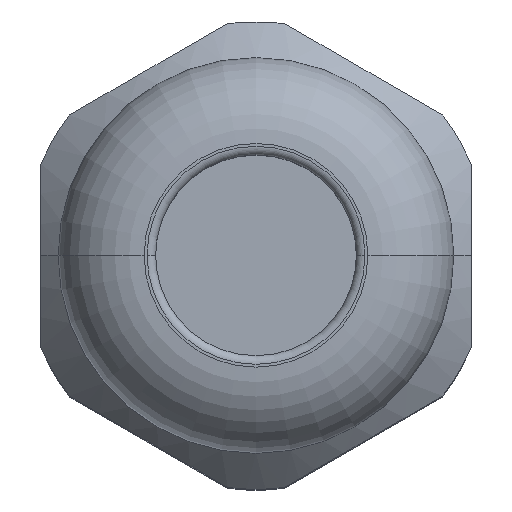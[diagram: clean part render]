
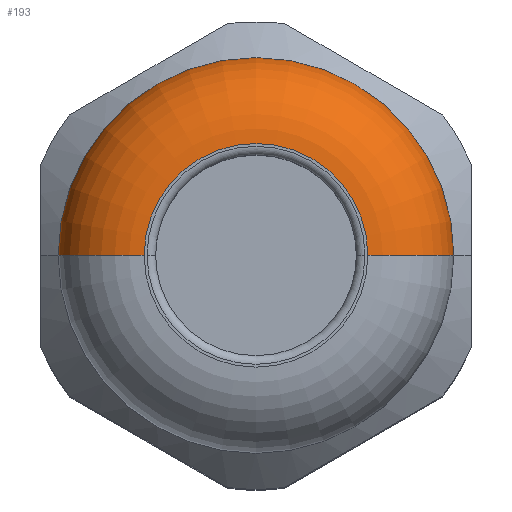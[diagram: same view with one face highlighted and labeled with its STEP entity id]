
A CAD part, top view. The second image highlights one B-rep face of the part: STEP entity #193.
In plain terms, the highlighted toroidal (fillet/blend) face has major radius 3.9 mm and minor radius 3 mm.
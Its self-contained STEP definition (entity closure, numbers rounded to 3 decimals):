
#193 = ADVANCED_FACE ( 'NONE', ( #1267 ), #1266, .T. ) ;
#194 = EDGE_LOOP ( 'NONE', ( #249, #251, #258, #259 ) ) ;
#203 = VERTEX_POINT ( 'NONE', #1299 ) ;
#205 = VERTEX_POINT ( 'NONE', #1298 ) ;
#214 = VERTEX_POINT ( 'NONE', #1276 ) ;
#221 = VERTEX_POINT ( 'NONE', #1323 ) ;
#249 = ORIENTED_EDGE ( 'NONE', *, *, #250, .T. ) ;
#250 = EDGE_CURVE ( 'NONE', #203, #214, #1336, .T. ) ;
#251 = ORIENTED_EDGE ( 'NONE', *, *, #252, .T. ) ;
#252 = EDGE_CURVE ( 'NONE', #214, #205, #1395, .T. ) ;
#253 = EDGE_CURVE ( 'NONE', #203, #221, #1390, .T. ) ;
#258 = ORIENTED_EDGE ( 'NONE', *, *, #263, .F. ) ;
#259 = ORIENTED_EDGE ( 'NONE', *, *, #253, .F. ) ;
#263 = EDGE_CURVE ( 'NONE', #221, #205, #1371, .T. ) ;
#1252 = DIRECTION ( 'NONE',  ( -1., 0., 0. ) ) ;
#1253 = DIRECTION ( 'NONE',  ( 0., 0., -1. ) ) ;
#1263 = AXIS2_PLACEMENT_3D ( 'NONE', #1264, #1253, #1252 ) ;
#1264 = CARTESIAN_POINT ( 'NONE',  ( 0., 0., 28. ) ) ;
#1266 = TOROIDAL_SURFACE ( 'NONE', #1263, 3.9, 3. ) ;
#1267 = FACE_OUTER_BOUND ( 'NONE', #194, .T. ) ;
#1276 = CARTESIAN_POINT ( 'NONE',  ( 3.9, 0., 31. ) ) ;
#1298 = CARTESIAN_POINT ( 'NONE',  ( 6.9, 0., 28. ) ) ;
#1299 = CARTESIAN_POINT ( 'NONE',  ( -3.9, 0., 31. ) ) ;
#1323 = CARTESIAN_POINT ( 'NONE',  ( -6.9, 0., 28. ) ) ;
#1332 = DIRECTION ( 'NONE',  ( -1., 0., 0. ) ) ;
#1333 = DIRECTION ( 'NONE',  ( 0., 0., -1. ) ) ;
#1334 = CARTESIAN_POINT ( 'NONE',  ( 0., 0., 31. ) ) ;
#1335 = AXIS2_PLACEMENT_3D ( 'NONE', #1334, #1333, #1332 ) ;
#1336 = CIRCLE ( 'NONE', #1335, 3.9 ) ;
#1368 = DIRECTION ( 'NONE',  ( -1., 0., 0. ) ) ;
#1369 = DIRECTION ( 'NONE',  ( 0., 0., -1. ) ) ;
#1370 = AXIS2_PLACEMENT_3D ( 'NONE', #1376, #1369, #1368 ) ;
#1371 = CIRCLE ( 'NONE', #1370, 6.9 ) ;
#1376 = CARTESIAN_POINT ( 'NONE',  ( 0., 0., 28. ) ) ;
#1386 = DIRECTION ( 'NONE',  ( 0., 0., -1. ) ) ;
#1387 = DIRECTION ( 'NONE',  ( 0., -1., 0. ) ) ;
#1388 = CARTESIAN_POINT ( 'NONE',  ( -3.9, 0., 28. ) ) ;
#1389 = AXIS2_PLACEMENT_3D ( 'NONE', #1388, #1387, #1386 ) ;
#1390 = CIRCLE ( 'NONE', #1389, 3. ) ;
#1391 = DIRECTION ( 'NONE',  ( -1., 0., 0. ) ) ;
#1392 = DIRECTION ( 'NONE',  ( 0., 1., 0. ) ) ;
#1393 = CARTESIAN_POINT ( 'NONE',  ( 3.9, 0., 28. ) ) ;
#1394 = AXIS2_PLACEMENT_3D ( 'NONE', #1393, #1392, #1391 ) ;
#1395 = CIRCLE ( 'NONE', #1394, 3. ) ;
